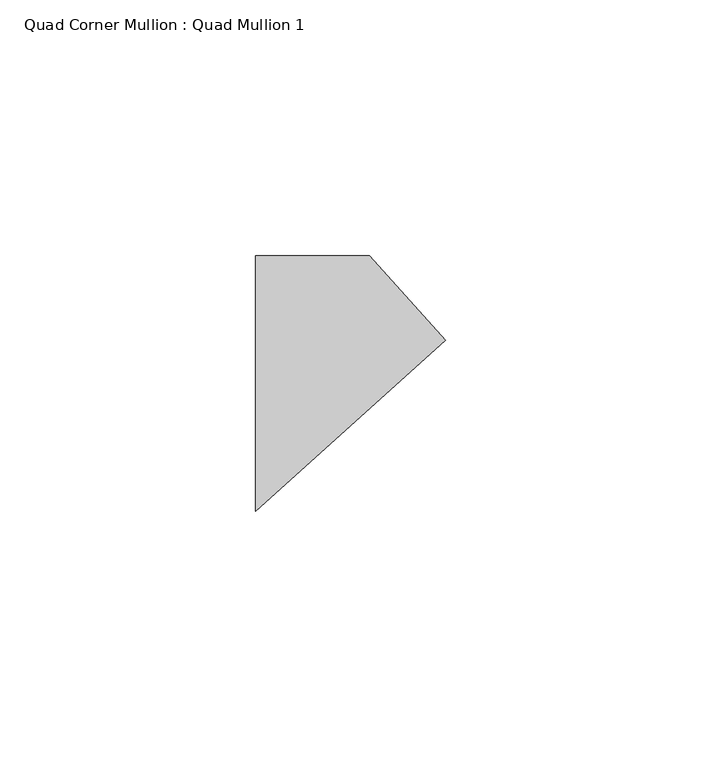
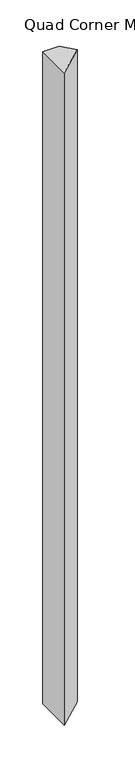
"""IFC4 building model written with IfcOpenShell, lengths in millimetres: member geometry, Quad Corner Mullion : Quad Mullion 1."""

from ifc_helpers import new_model, si_unit, frame, origin, place, context, project, spatial, polyline, outline, extrude, source, transform, mapped, element, save


def quad_corner_mullion_quad_mullion_1_bb9830d6(model_context):
    return source(origin(), model_context, "Body", "SweptSolid", [
        extrude(outline(polyline([(26.0265241, 8.4565303), (-11.1307171, -25.0), (-11.1307171, 25.0), (11.1307171, 25.0), (26.0265241, 8.4565303)])), frame((0.0, 0.0, -930.0), z_axis=(0.0, 0.0, 1.0), x_axis=(1.0, 0.0, 0.0)), (0.0, 0.0, 1.0), 930.0),
    ])


if __name__ == "__main__":
    model = new_model("IFC4")
    model_context = context("Model", 3, world=origin())
    ifc_project = project(units=[si_unit("LENGTHUNIT", "METRE", prefix="MILLI")], contexts=[model_context])
    site = spatial("IfcSite", under=ifc_project)
    building = spatial("IfcBuilding", under=site)
    placement = place(None, origin())
    quad_corner_mullion_quad_mullion_1_shape = quad_corner_mullion_quad_mullion_1_bb9830d6(model_context)
    element("IfcMember", 1, ObjectType="Quad Corner Mullion : Quad Mullion 1", at=placement, inside=building, context=model_context, shape_type="MappedRepresentation", body=[
        mapped(quad_corner_mullion_quad_mullion_1_shape, transform((0.0, 0.0, 0.0), x_axis=(1.0, 0.0, 0.0), y_axis=(0.0, 1.0, 0.0), z_axis=(0.0, 0.0, 1.0))),
    ])
    save(model, "model.ifc")
